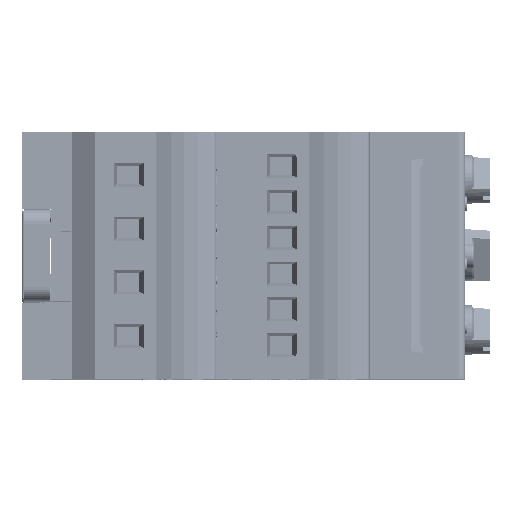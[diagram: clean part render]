
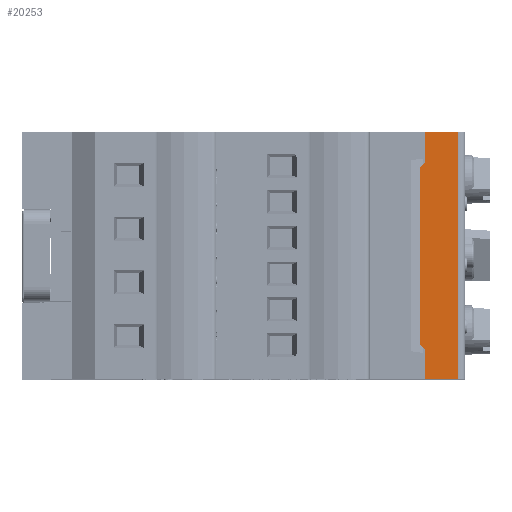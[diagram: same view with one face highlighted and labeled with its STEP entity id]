
A CAD part, top view. The second image highlights one B-rep face of the part: STEP entity #20253.
In plain terms, the highlighted planar face has unit normal (0, 0, 1) as drawn and (0, -1, 0) by its records, which use the part's own axes.
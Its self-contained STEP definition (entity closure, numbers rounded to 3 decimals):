
#20253=ADVANCED_FACE('',(#259770),#259772,.F.);
#259770=FACE_BOUND('',#259771,.T.);
#259771=EDGE_LOOP('',(#441010,#441011,#441012,#441013,#441014,#441015,#441016,#441017));
#259772=PLANE('',#259773);
#259773=AXIS2_PLACEMENT_3D('',#259774,#259775,#259776);
#259774=CARTESIAN_POINT('',(-17.5,-22.6,1.5));
#259775=DIRECTION('',(0.,1.,-0.));
#259776=DIRECTION('',(-1.,0.,0.));
#441010=ORIENTED_EDGE('',*,*,#621452,.T.);
#441011=ORIENTED_EDGE('',*,*,#621460,.T.);
#441012=ORIENTED_EDGE('',*,*,#621458,.F.);
#441013=ORIENTED_EDGE('',*,*,#621462,.F.);
#441014=ORIENTED_EDGE('',*,*,#621498,.T.);
#441015=ORIENTED_EDGE('',*,*,#621502,.F.);
#441016=ORIENTED_EDGE('',*,*,#621486,.T.);
#441017=ORIENTED_EDGE('',*,*,#621481,.F.);
#621452=EDGE_CURVE('',#699455,#699453,#699456,.T.);
#621458=EDGE_CURVE('',#699463,#699465,#699466,.T.);
#621460=EDGE_CURVE('',#699453,#699465,#699468,.T.);
#621462=EDGE_CURVE('',#699469,#699463,#699471,.T.);
#621481=EDGE_CURVE('',#699455,#699500,#699501,.T.);
#621486=EDGE_CURVE('',#699505,#699500,#699508,.T.);
#621498=EDGE_CURVE('',#699469,#699524,#699526,.T.);
#621502=EDGE_CURVE('',#699505,#699524,#699530,.T.);
#699453=VERTEX_POINT('',#833072);
#699455=VERTEX_POINT('',#833077);
#699456=LINE('',#833078,#833079);
#699463=VERTEX_POINT('',#833096);
#699465=VERTEX_POINT('',#833100);
#699466=LINE('',#833101,#833102);
#699468=LINE('',#833108,#833109);
#699469=VERTEX_POINT('',#833111);
#699471=LINE('',#833115,#833116);
#699500=VERTEX_POINT('',#833182);
#699501=LINE('',#833183,#833184);
#699505=VERTEX_POINT('',#833193);
#699508=LINE('',#833200,#833201);
#699524=VERTEX_POINT('',#833238);
#699526=LINE('',#833242,#833243);
#699530=LINE('',#833254,#833255);
#833072=CARTESIAN_POINT('',(-17.5,-22.6,1.));
#833077=CARTESIAN_POINT('',(-17.5,-22.6,5.75));
#833078=CARTESIAN_POINT('',(-17.5,-22.6,5.75));
#833079=VECTOR('',#833080,1.);
#833080=DIRECTION('',(0.,0.,-1.));
#833096=CARTESIAN_POINT('',(17.5,-22.6,5.75));
#833100=CARTESIAN_POINT('',(17.5,-22.6,1.));
#833101=CARTESIAN_POINT('',(17.5,-22.6,5.75));
#833102=VECTOR('',#833103,1.);
#833103=DIRECTION('',(0.,0.,-1.));
#833108=CARTESIAN_POINT('',(-17.5,-22.6,1.));
#833109=VECTOR('',#833110,1.);
#833110=DIRECTION('',(1.,0.,0.));
#833111=CARTESIAN_POINT('',(13.2,-22.6,5.75));
#833115=CARTESIAN_POINT('',(13.2,-22.6,5.75));
#833116=VECTOR('',#833117,1.);
#833117=DIRECTION('',(1.,0.,0.));
#833182=CARTESIAN_POINT('',(-13.2,-22.6,5.75));
#833183=CARTESIAN_POINT('',(-17.5,-22.6,5.75));
#833184=VECTOR('',#833185,1.);
#833185=DIRECTION('',(1.,0.,0.));
#833193=CARTESIAN_POINT('',(-12.5,-22.6,6.45));
#833200=CARTESIAN_POINT('',(-12.5,-22.6,6.45));
#833201=VECTOR('',#833202,1.);
#833202=DIRECTION('',(-0.707,0.,-0.707));
#833238=CARTESIAN_POINT('',(12.5,-22.6,6.45));
#833242=CARTESIAN_POINT('',(13.2,-22.6,5.75));
#833243=VECTOR('',#833244,1.);
#833244=DIRECTION('',(-0.707,0.,0.707));
#833254=CARTESIAN_POINT('',(-12.5,-22.6,6.45));
#833255=VECTOR('',#833256,1.);
#833256=DIRECTION('',(1.,0.,0.));
